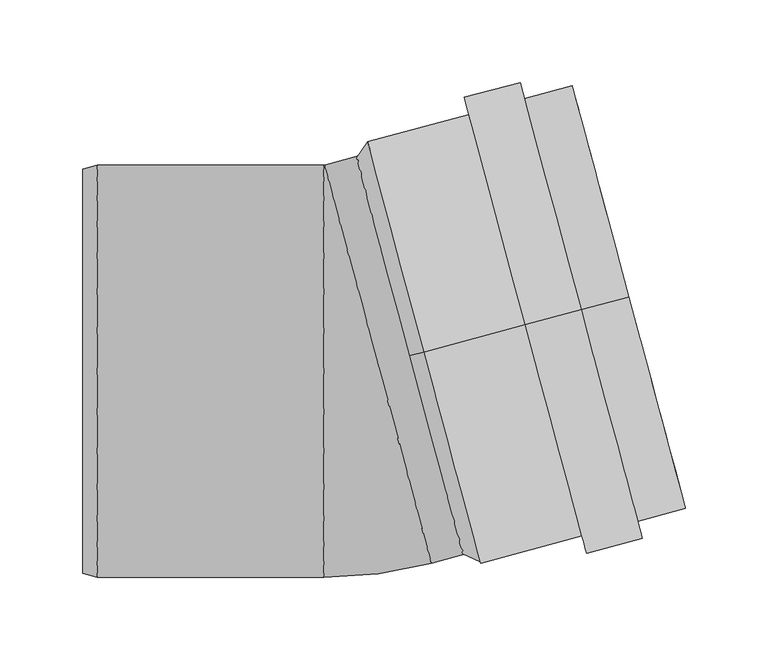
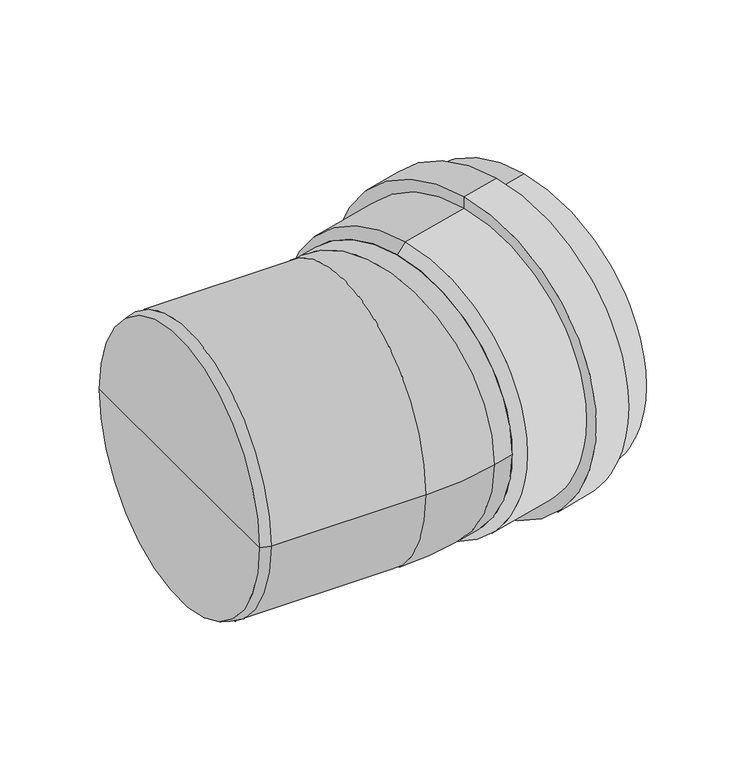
"""IFC4 building model written with IfcOpenShell, lengths in millimetres: pipe fitting geometry, OSMA_KG2000_PPKGB : Koleno 15°."""

from ifc_helpers import new_model, si_unit, point, frame, origin, place, context, project, spatial, polyline, circle_curve, ellipse_curve, trimmed, source, transform, mapped, element, save
from ifc_brep_helpers import plane_surface, cylinder_surface, revolved_surface, advanced_brep


def pipe_fitting_5b8b662c(model_context):
    return source(origin(), model_context, "Body", "AdvancedBrep", [
        advanced_brep(
        [(43.9496251, 11.7762666, 125.0), (43.9496251, 11.7762666, -125.0), (168.0710938, 45.0345138, -125.0), (168.0710938, 45.0345138, 125.0), (105.2859151, 28.2112759, 132.7), (105.2859151, 28.2112759, -132.7), (43.9496251, 11.7762666, -132.7), (43.9496251, 11.7762666, 132.7), (105.2859151, 28.2112759, 143.5), (105.2859151, 28.2112759, -143.5), (139.093319, 37.2699425, 143.5), (139.093319, 37.2699425, -143.5), (139.093319, 37.2699425, 132.7), (139.093319, 37.2699425, -132.7), (168.0710938, 45.0345138, 132.7), (168.0710938, 45.0345138, -132.7), (35.2562927, 9.4468951, 117.3), (35.2562927, 9.4468951, -117.3), (35.2562927, 9.4468951, 125.0), (35.2562927, 9.4468951, -125.0)],
        [
            (0, 1, circle_curve(frame((43.9496251, 11.7762666, 0.0), z_axis=(-0.9659258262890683, -0.2588190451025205, 0.0), x_axis=(0.0, 0.0, -1.0)), 125.0)),
            (1, 2),
            (2, 3, circle_curve(frame((168.0710938, 45.0345138, 0.0), z_axis=(0.9659258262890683, 0.2588190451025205, 0.0), x_axis=(0.0, 0.0, -1.0)), 125.0)),
            (3, 0),
            (1, 0, circle_curve(frame((43.9496251, 11.7762666, 0.0), z_axis=(-0.9659258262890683, -0.2588190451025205, 0.0), x_axis=(0.0, 0.0, -1.0)), 125.0)),
            (3, 2, circle_curve(frame((168.0710938, 45.0345138, 0.0), z_axis=(0.9659258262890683, 0.2588190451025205, 0.0), x_axis=(0.0, 0.0, -1.0)), 125.0)),
            (4, 5, circle_curve(frame((105.2859151, 28.2112759, 0.0), z_axis=(-0.9659258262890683, -0.2588190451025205, 0.0), x_axis=(0.0, 0.0, -1.0)), 132.7)),
            (5, 6),
            (6, 7, circle_curve(frame((43.9496251, 11.7762666, 0.0), z_axis=(0.9659258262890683, 0.2588190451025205, 0.0), x_axis=(0.0, 0.0, -1.0)), 132.7)),
            (7, 4),
            (5, 4, circle_curve(frame((105.2859151, 28.2112759, 0.0), z_axis=(-0.9659258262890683, -0.2588190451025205, 0.0), x_axis=(0.0, 0.0, -1.0)), 132.7)),
            (7, 6, circle_curve(frame((43.9496251, 11.7762666, 0.0), z_axis=(0.9659258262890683, 0.2588190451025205, 0.0), x_axis=(0.0, 0.0, -1.0)), 132.7)),
            (8, 9, circle_curve(frame((105.2859151, 28.2112759, 0.0), z_axis=(-0.9659258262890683, -0.2588190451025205, 0.0), x_axis=(0.0, 0.0, -1.0)), 143.5)),
            (9, 5),
            (4, 8),
            (9, 8, circle_curve(frame((105.2859151, 28.2112759, 0.0), z_axis=(-0.9659258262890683, -0.2588190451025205, 0.0), x_axis=(0.0, 0.0, -1.0)), 143.5)),
            (10, 11, circle_curve(frame((139.093319, 37.2699425, 0.0), z_axis=(-0.9659258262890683, -0.2588190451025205, 0.0), x_axis=(0.0, 0.0, -1.0)), 143.5)),
            (11, 9),
            (8, 10),
            (11, 10, circle_curve(frame((139.093319, 37.2699425, 0.0), z_axis=(-0.9659258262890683, -0.2588190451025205, 0.0), x_axis=(0.0, 0.0, -1.0)), 143.5)),
            (12, 13, circle_curve(frame((139.093319, 37.2699425, 0.0), z_axis=(-0.9659258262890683, -0.2588190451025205, 0.0), x_axis=(0.0, 0.0, -1.0)), 132.7)),
            (13, 11),
            (10, 12),
            (13, 12, circle_curve(frame((139.093319, 37.2699425, 0.0), z_axis=(-0.9659258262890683, -0.2588190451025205, 0.0), x_axis=(0.0, 0.0, -1.0)), 132.7)),
            (14, 15, circle_curve(frame((168.0710938, 45.0345138, 0.0), z_axis=(-0.9659258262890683, -0.2588190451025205, 0.0), x_axis=(0.0, 0.0, -1.0)), 132.7)),
            (15, 13),
            (12, 14),
            (15, 14, circle_curve(frame((168.0710938, 45.0345138, 0.0), z_axis=(-0.9659258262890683, -0.2588190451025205, 0.0), x_axis=(0.0, 0.0, -1.0)), 132.7)),
            (2, 15),
            (14, 3),
            (16, 17, circle_curve(frame((35.2562927, 9.4468951, 0.0), z_axis=(-0.9659258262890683, -0.2588190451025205, 0.0), x_axis=(0.0, 0.0, -1.0)), 117.3)),
            (17, 1),
            (0, 16),
            (17, 16, circle_curve(frame((35.2562927, 9.4468951, 0.0), z_axis=(-0.9659258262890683, -0.2588190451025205, 0.0), x_axis=(0.0, 0.0, -1.0)), 117.3)),
            (18, 19, circle_curve(frame((35.2562927, 9.4468951, 0.0), z_axis=(-0.9659258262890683, -0.2588190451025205, 0.0), x_axis=(0.0, 0.0, -1.0)), 125.0)),
            (19, 17),
            (16, 18),
            (19, 18, circle_curve(frame((35.2562927, 9.4468951, 0.0), z_axis=(-0.9659258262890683, -0.2588190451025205, 0.0), x_axis=(0.0, 0.0, -1.0)), 125.0)),
            (6, 19),
            (18, 7),
        ],
        [
            revolved_surface(polyline([(168.0710937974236, 45.034513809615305, -125.0), (43.94962512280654, 11.776266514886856, -125.0)]), (2746.5851853, 735.9452823, 0.0), (0.9659258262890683, 0.2588190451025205, 0.0)),
            cylinder_surface(frame((2746.5851853, 735.9452823, 0.0), z_axis=(0.9659258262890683, 0.2588190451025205, 0.0), x_axis=(0.0, 0.0, -1.0)), 132.7),
            plane_surface(frame((105.2859151, 28.2112759, 0.0), z_axis=(-0.9659258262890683, -0.2588190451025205, 0.0), x_axis=(0.0, 0.0, -1.0))),
            cylinder_surface(frame((2746.5851853, 735.9452823, 0.0), z_axis=(0.9659258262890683, 0.2588190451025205, 0.0), x_axis=(0.0, 0.0, -1.0)), 143.5),
            plane_surface(frame((139.093319, 37.2699425, 0.0), z_axis=(0.9659258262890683, 0.2588190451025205, 0.0), x_axis=(0.0, 0.0, -1.0))),
            plane_surface(frame((168.0710938, 45.0345138, 0.0), z_axis=(0.9659258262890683, 0.2588190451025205, 0.0), x_axis=(0.0, 0.0, -1.0))),
            revolved_surface(polyline([(43.9496251, 11.7762666, -125.0), (35.2562927, 9.4468951, -117.3)]), (2746.5851853, 735.9452823, 0.0), (0.9659258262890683, 0.2588190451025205, 0.0)),
            plane_surface(frame((35.2562927, 9.4468951, 0.0), z_axis=(-0.9659258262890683, -0.2588190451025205, 0.0), x_axis=(0.0, 0.0, -1.0))),
            revolved_surface(polyline([(35.2562927, 9.4468951, -125.0), (43.9496251, 11.7762666, -132.7)]), (2746.5851853, 735.9452823, 0.0), (0.9659258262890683, 0.2588190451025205, 0.0)),
        ],
        [
            (0, [[1, 2, 3, 4]]),
            (0, [[5, -4, 6, -2]]),
            (1, [[7, 8, 9, 10]]),
            (1, [[11, -10, 12, -8]]),
            (2, [[13, 14, -7, 15]]),
            (2, [[16, -15, -11, -14]]),
            (3, [[17, 18, -13, 19]]),
            (3, [[20, -19, -16, -18]]),
            (4, [[21, 22, -17, 23]]),
            (4, [[24, -23, -20, -22]]),
            (1, [[25, 26, -21, 27]]),
            (1, [[28, -27, -24, -26]]),
            (5, [[-3, 29, -25, 30]]),
            (5, [[-6, -30, -28, -29]]),
            (6, [[31, 32, -1, 33]]),
            (6, [[34, -33, -5, -32]]),
            (7, [[35, 36, -31, 37]]),
            (7, [[38, -37, -34, -36]]),
            (8, [[-9, 39, -35, 40]]),
            (8, [[-12, -40, -38, -39]]),
        ],
    ),
        advanced_brep(
        [(-163.0, 0.0, 0.0), (-163.0, 122.5884572, 0.0), (-163.0, -122.5884572, 0.0), (-154.0, 125.0, 0.0), (-154.0, -125.0, 0.0), (-16.2658124, 125.0511113, 0.0), (-16.6540409, 125.0, 0.0), (-16.6540409, -125.0, 0.0), (48.4389489, -116.4303453, 0.0), (16.0865683, 4.310383, 125.0), (16.0865683, 4.310383, -125.0), (74.853117, -109.3526903, 0.0), (10.1483557, 132.1287663, 0.0)],
        [
            (0, 1),
            (1, 2, circle_curve(frame((-163.0, 0.0, 0.0), z_axis=(-1.0, 0.0, 0.0), x_axis=(0.0, 1.0, 0.0)), 122.5884572)),
            (2, 0),
            (2, 1, circle_curve(frame((-163.0, 0.0, 0.0), z_axis=(-1.0, 0.0, 0.0), x_axis=(0.0, 1.0, 0.0)), 122.5884572)),
            (1, 3),
            (3, 4, circle_curve(frame((-154.0, 0.0, 0.0), z_axis=(-1.0, 0.0, 0.0), x_axis=(0.0, 1.0, 0.0)), 125.0)),
            (4, 2),
            (4, 3, circle_curve(frame((-154.0, 0.0, 0.0), z_axis=(-1.0, 0.0, 0.0), x_axis=(0.0, 1.0, 0.0)), 125.0)),
            (5, 6, circle_curve(frame((-16.6540409, 126.5, 0.0), z_axis=(0.0, 0.0, -1.0), x_axis=(0.0, -1.0, 0.0)), 1.5)),
            (6, 7, circle_curve(frame((-16.6540409, 0.0, 0.0), z_axis=(1.0, 0.0, 0.0), x_axis=(0.0, 1.0, 0.0)), 125.0)),
            (7, 8, circle_curve(frame((-16.6540409, 126.5, 0.0), z_axis=(0.0, 0.0, 1.0), x_axis=(0.0, -1.0, 0.0)), 251.5)),
            (8, 9, circle_curve(frame((16.0865683, 4.310383, 0.0), z_axis=(-0.9659258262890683, -0.2588190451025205, 0.0), x_axis=(-0.2588190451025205, 0.9659258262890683, 0.0)), 125.0)),
            (9, 5, circle_curve(frame((16.0865683, 4.310383, 0.0), z_axis=(-0.9659258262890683, -0.2588190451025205, 0.0), x_axis=(-0.2588190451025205, 0.9659258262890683, 0.0)), 125.0)),
            (5, 10, circle_curve(frame((16.0865683, 4.310383, 0.0), z_axis=(-0.9659258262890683, -0.2588190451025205, 0.0), x_axis=(-0.2588190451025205, 0.9659258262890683, 0.0)), 125.0)),
            (10, 8, circle_curve(frame((16.0865683, 4.310383, 0.0), z_axis=(-0.9659258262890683, -0.2588190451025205, 0.0), x_axis=(-0.2588190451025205, 0.9659258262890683, 0.0)), 125.0)),
            (7, 6, circle_curve(frame((-16.6540409, 0.0, 0.0), z_axis=(1.0, 0.0, 0.0), x_axis=(0.0, 1.0, 0.0)), 125.0)),
            (3, 6),
            (7, 4),
            (11, 12, circle_curve(frame((42.5007364, 11.388038, 0.0), z_axis=(0.9659258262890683, 0.2588190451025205, 0.0), x_axis=(-0.2588190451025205, 0.9659258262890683, 0.0)), 125.0)),
            (12, 11, circle_curve(frame((42.5007364, 11.388038, 0.0), z_axis=(0.9659258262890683, 0.2588190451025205, 0.0), x_axis=(-0.2588190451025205, 0.9659258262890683, 0.0)), 125.0)),
            (12, 5),
            (8, 11),
        ],
        [
            plane_surface(frame((-163.0, 0.0, 0.0), z_axis=(-1.0, 0.0, 0.0), x_axis=(0.0, 1.0, 0.0))),
            revolved_surface(polyline([(-154.0, 125.0, 0.0), (-163.0, 122.5884572, 0.0)]), (331.0587718, 0.0, 0.0), (-1.0, 0.0, 0.0)),
            revolved_surface(trimmed(ellipse_curve(frame((-16.6540409, 0.0, 0.0), z_axis=(-1.0, 0.0, 0.0), x_axis=(0.0, 1.0, 0.0)), 125.0, 125.0), [point((-16.6540409, -125.0, 0.0))], [point((-16.6540409, 125.0, 0.0))], True, "CARTESIAN"), (-16.6540409, 126.5, 0.0), (0.0, 0.0, 1.0)),
            revolved_surface(trimmed(ellipse_curve(frame((-16.6540409, 0.0, 0.0), z_axis=(-1.0, 0.0, 0.0), x_axis=(0.0, 1.0, 0.0)), 125.0, 125.0), [point((-16.6540409, 125.0, 0.0))], [point((-16.6540409, -125.0, 0.0))], True, "CARTESIAN"), (-16.6540409, 126.5, 0.0), (0.0, 0.0, 1.0)),
            cylinder_surface(frame((331.0587718, 0.0, 0.0), z_axis=(-1.0, 0.0, 0.0), x_axis=(0.0, 1.0, 0.0)), 125.0),
            plane_surface(frame((42.5007364, 11.388038, 0.0), z_axis=(0.9659258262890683, 0.2588190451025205, 0.0), x_axis=(0.0, 0.0, 1.0))),
            cylinder_surface(frame((16.0865683, 4.310383, 0.0), z_axis=(-0.9659258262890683, -0.2588190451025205, 0.0), x_axis=(-0.2588190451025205, 0.9659258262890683, 0.0)), 125.0),
        ],
        [
            (0, [[1, 2, 3]]),
            (0, [[-1, -3, 4]]),
            (1, [[-2, 5, 6, 7]]),
            (1, [[-4, -7, 8, -5]]),
            (2, [[9, 10, 11, 12, 13]]),
            (3, [[-9, 14, 15, -11, 16]]),
            (4, [[-6, 17, -16, 18]]),
            (4, [[-8, -18, -10, -17]]),
            (5, [[19, 20]]),
            (6, [[-20, 21, -13, -12, 22]]),
            (6, [[-19, -22, -15, -14, -21]]),
        ],
    ),
    ])


if __name__ == "__main__":
    model = new_model("IFC4")
    model_context = context("Model", 3, world=origin())
    ifc_project = project(units=[si_unit("LENGTHUNIT", "METRE", prefix="MILLI")], contexts=[model_context])
    site = spatial("IfcSite", under=ifc_project)
    building = spatial("IfcBuilding", under=site)
    placement = place(None, origin())
    pipe_fitting_shape = pipe_fitting_5b8b662c(model_context)
    element("IfcPipeFitting", 1, ObjectType="OSMA_KG2000_PPKGB : Koleno 15°", at=placement, inside=building, context=model_context, shape_type="MappedRepresentation", body=[
        mapped(pipe_fitting_shape, transform((0.0, 0.0, 0.0), x_axis=(1.0, 0.0, 0.0), y_axis=(0.0, 1.0, 0.0), z_axis=(0.0, 0.0, 1.0))),
    ])
    save(model, "model.ifc")
